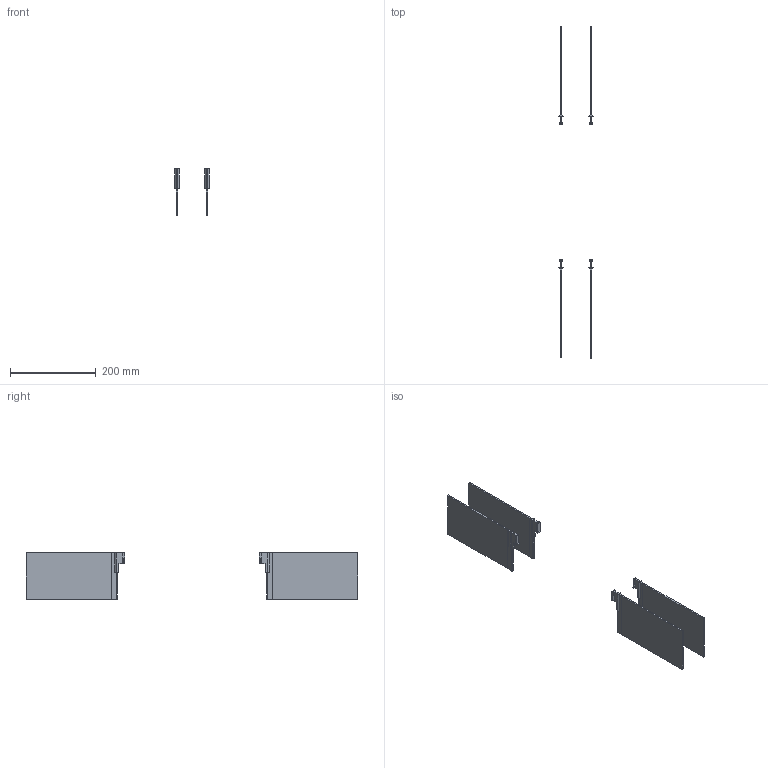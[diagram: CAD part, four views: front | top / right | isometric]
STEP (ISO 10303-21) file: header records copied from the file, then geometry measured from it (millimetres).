
FILE_DESCRIPTION (( 'STEP AP214' ), '1' );
FILE_NAME ('ôûàôû.STEP', '2023-07-05T11:49:32', ( '' ), ( '' ), 'SwSTEP 2.0', 'SolidWorks 2018', '' );
FILE_SCHEMA (( 'AUTOMOTIVE_DESIGN' ));
Length unit declared in the file: millimetre
Products named in the file (1): ôûàôû
Bounding box: 79.8 x 774.8 x 110 mm (x, y, z)
Volume: 345325.1 mm3; surface area: 204997.5 mm2
Topology: 4 solids, 4 shells, 180 faces, 516 edges, 344 vertices
Faces by surface type: plane 108, cylinder 72
Entity records: 8001 total; most frequent: CARTESIAN_POINT 1113, ORIENTED_EDGE 1032, DIRECTION 1014, EDGE_CURVE 516, LINE 364, VECTOR 364, VERTEX_POINT 344, AXIS2_PLACEMENT_3D 325
